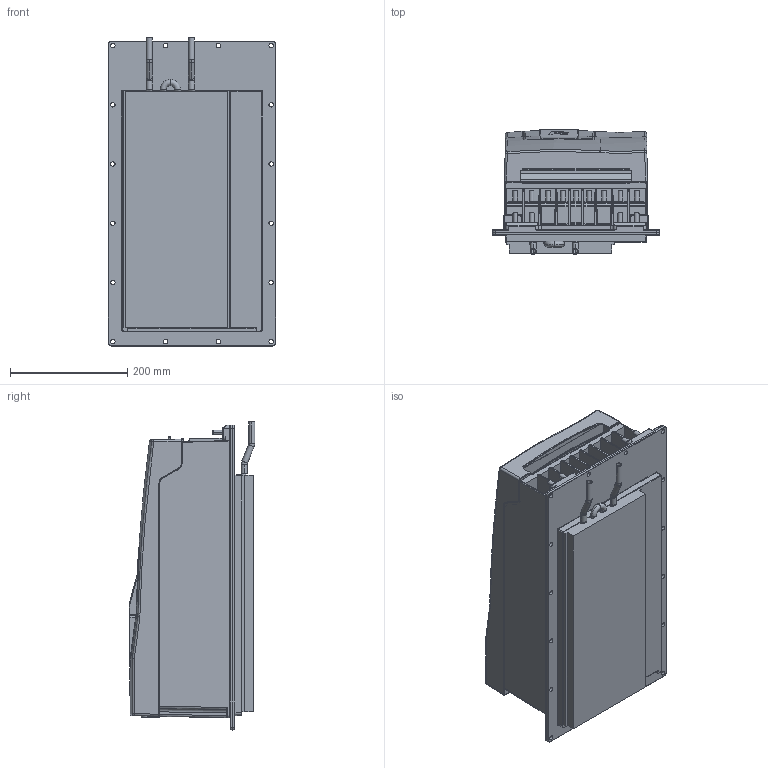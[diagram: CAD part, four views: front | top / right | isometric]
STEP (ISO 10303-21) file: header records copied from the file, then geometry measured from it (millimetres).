
FILE_DESCRIPTION (( 'STEP AP214' ), '1' );
FILE_NAME ('F6-6 TW5-A030.STEP', '2020-12-04T14:37:08', ( '' ), ( '' ), 'SwSTEP 2.0', 'SolidWorks 2019', '' );
FILE_SCHEMA (( 'AUTOMOTIVE_DESIGN' ));
Length unit declared in the file: millimetre
Products named in the file (11): 10027052_000_Geh„usebaugruppe F6-6 (Kundenmodell); 10059765_000; 10059764_000_Blindabdeckung (Kundenmodell); 10035736_000_Kundenmodell; 10060787_000; 10046078_000_Leistungsteil F6-6 TW5 (Kundenmodell); 10061794_000; F6-6 TW5-A030; 10061793_000_Deckelbaugruppe F6-6 (Kundenmodell); 10059763_000; 10062206_000
Assembly tree (10 placements, depth 4):
  F6-6 TW5-A030
    10046078_000_Leistungsteil F6-6 TW5 (Kundenmodell)
      10062206_000
    10035736_000_Kundenmodell
      10059764_000_Blindabdeckung (Kundenmodell)
        10059765_000
      10059763_000
    10027052_000_Geh„usebaugruppe F6-6 (Kundenmodell)
      10061793_000_Deckelbaugruppe F6-6 (Kundenmodell)
        10061794_000
      10060787_000
Bounding box: 285 x 214.1 x 525.5 mm (x, y, z)
Volume: 20593079 mm3; surface area: 1266604.8 mm2
Topology: 12 solids, 25 shells, 3225 faces, 8198 edges, 4943 vertices
Faces by surface type: cylinder 1101, plane 1083, bspline 644, torus 193, sphere 108, cone 96
Entity records: 110510 total; most frequent: CARTESIAN_POINT 37988, ORIENTED_EDGE 16076, DIRECTION 13917, EDGE_CURVE 8038, AXIS2_PLACEMENT_3D 5056, VERTEX_POINT 4941, LINE 3805, VECTOR 3805
